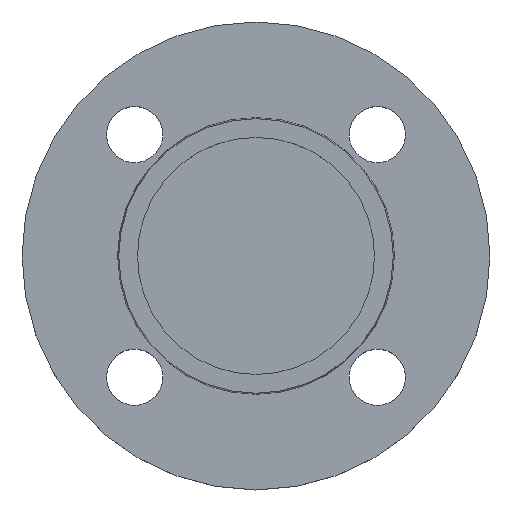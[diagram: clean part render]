
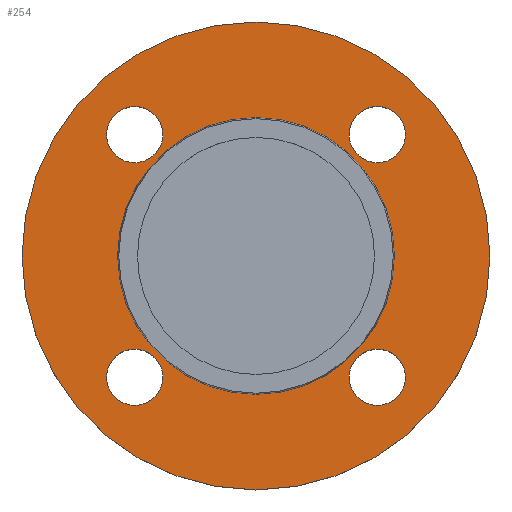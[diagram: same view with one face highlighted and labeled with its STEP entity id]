
A CAD part, top view. The second image highlights one B-rep face of the part: STEP entity #254.
In plain terms, the highlighted planar face has unit normal (0, 0, 1).
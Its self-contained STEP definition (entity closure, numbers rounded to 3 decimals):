
#2 = EDGE_CURVE ( 'NONE', #226, #391, #298, .T. ) ;
#16 = CIRCLE ( 'NONE', #29, 9. ) ;
#19 = AXIS2_PLACEMENT_3D ( 'NONE', #636, #639, #640 ) ;
#28 = EDGE_CURVE ( 'NONE', #227, #468, #16, .T. ) ;
#29 = AXIS2_PLACEMENT_3D ( 'NONE', #523, #524, #526 ) ;
#35 = AXIS2_PLACEMENT_3D ( 'NONE', #311, #281, #118 ) ;
#76 = AXIS2_PLACEMENT_3D ( 'NONE', #584, #585, #586 ) ;
#99 = AXIS2_PLACEMENT_3D ( 'NONE', #569, #570, #571 ) ;
#101 = CIRCLE ( 'NONE', #99, 75. ) ;
#118 = DIRECTION ( 'NONE',  ( 1., 0., 0. ) ) ;
#120 = AXIS2_PLACEMENT_3D ( 'NONE', #273, #658, #659 ) ;
#124 = CARTESIAN_POINT ( 'NONE',  ( -47.891, -38.891, -2. ) ) ;
#155 = CIRCLE ( 'NONE', #190, 9. ) ;
#168 = EDGE_CURVE ( 'NONE', #491, #247, #413, .T. ) ;
#171 = CARTESIAN_POINT ( 'NONE',  ( -44.353, 0., -2. ) ) ;
#176 = EDGE_CURVE ( 'NONE', #472, #481, #155, .T. ) ;
#182 = EDGE_CURVE ( 'NONE', #247, #491, #101, .T. ) ;
#183 = CIRCLE ( 'NONE', #209, 9. ) ;
#190 = AXIS2_PLACEMENT_3D ( 'NONE', #557, #558, #559 ) ;
#196 = EDGE_CURVE ( 'NONE', #481, #472, #263, .T. ) ;
#201 = CIRCLE ( 'NONE', #35, 9. ) ;
#207 = EDGE_CURVE ( 'NONE', #391, #226, #283, .T. ) ;
#209 = AXIS2_PLACEMENT_3D ( 'NONE', #250, #257, #699 ) ;
#214 = CARTESIAN_POINT ( 'NONE',  ( 29.891, 38.891, -2. ) ) ;
#217 = AXIS2_PLACEMENT_3D ( 'NONE', #220, #221, #222 ) ;
#220 = CARTESIAN_POINT ( 'NONE',  ( 38.891, -38.891, -2. ) ) ;
#221 = DIRECTION ( 'NONE',  ( 0., 0., -1. ) ) ;
#222 = DIRECTION ( 'NONE',  ( 1., 0., 0. ) ) ;
#226 = VERTEX_POINT ( 'NONE', #595 ) ;
#227 = VERTEX_POINT ( 'NONE', #597 ) ;
#236 = VERTEX_POINT ( 'NONE', #611 ) ;
#238 = EDGE_LOOP ( 'NONE', ( #387, #388 ) ) ;
#247 = VERTEX_POINT ( 'NONE', #621 ) ;
#250 = CARTESIAN_POINT ( 'NONE',  ( 38.891, -38.891, -2. ) ) ;
#254 = ADVANCED_FACE ( 'NONE', ( #629, #630, #631, #632, #633, #634 ), #635, .T. ) ;
#257 = DIRECTION ( 'NONE',  ( 0., 0., -1. ) ) ;
#263 = CIRCLE ( 'NONE', #291, 9. ) ;
#265 = EDGE_LOOP ( 'NONE', ( #379, #380 ) ) ;
#268 = CIRCLE ( 'NONE', #217, 9. ) ;
#270 = EDGE_CURVE ( 'NONE', #500, #492, #288, .T. ) ;
#273 = CARTESIAN_POINT ( 'NONE',  ( 0., 0., -2. ) ) ;
#281 = DIRECTION ( 'NONE',  ( 0., 0., -1. ) ) ;
#282 = CARTESIAN_POINT ( 'NONE',  ( -29.891, 38.891, -2. ) ) ;
#283 = CIRCLE ( 'NONE', #76, 9. ) ;
#287 = CARTESIAN_POINT ( 'NONE',  ( -29.891, -38.891, -2. ) ) ;
#288 = CIRCLE ( 'NONE', #120, 44.353 ) ;
#291 = AXIS2_PLACEMENT_3D ( 'NONE', #580, #581, #582 ) ;
#296 = AXIS2_PLACEMENT_3D ( 'NONE', #542, #543, #544 ) ;
#298 = CIRCLE ( 'NONE', #596, 9. ) ;
#300 = CARTESIAN_POINT ( 'NONE',  ( 44.353, 0., -2. ) ) ;
#307 = CARTESIAN_POINT ( 'NONE',  ( -75., 0., -2. ) ) ;
#311 = CARTESIAN_POINT ( 'NONE',  ( -38.891, 38.891, -2. ) ) ;
#314 = CARTESIAN_POINT ( 'NONE',  ( 47.891, -38.891, -2. ) ) ;
#319 = EDGE_CURVE ( 'NONE', #492, #500, #528, .T. ) ;
#330 = AXIS2_PLACEMENT_3D ( 'NONE', #704, #705, #707 ) ;
#363 = EDGE_LOOP ( 'NONE', ( #381, #383 ) ) ;
#377 = ORIENTED_EDGE ( 'NONE', *, *, #403, .T. ) ;
#378 = ORIENTED_EDGE ( 'NONE', *, *, #412, .T. ) ;
#379 = ORIENTED_EDGE ( 'NONE', *, *, #176, .T. ) ;
#380 = ORIENTED_EDGE ( 'NONE', *, *, #196, .T. ) ;
#381 = ORIENTED_EDGE ( 'NONE', *, *, #603, .T. ) ;
#383 = ORIENTED_EDGE ( 'NONE', *, *, #28, .T. ) ;
#384 = ORIENTED_EDGE ( 'NONE', *, *, #2, .T. ) ;
#386 = ORIENTED_EDGE ( 'NONE', *, *, #207, .T. ) ;
#387 = ORIENTED_EDGE ( 'NONE', *, *, #270, .T. ) ;
#388 = ORIENTED_EDGE ( 'NONE', *, *, #319, .T. ) ;
#389 = ORIENTED_EDGE ( 'NONE', *, *, #182, .F. ) ;
#391 = VERTEX_POINT ( 'NONE', #214 ) ;
#392 = ORIENTED_EDGE ( 'NONE', *, *, #168, .F. ) ;
#403 = EDGE_CURVE ( 'NONE', #503, #236, #268, .T. ) ;
#412 = EDGE_CURVE ( 'NONE', #236, #503, #183, .T. ) ;
#413 = CIRCLE ( 'NONE', #296, 75. ) ;
#468 = VERTEX_POINT ( 'NONE', #282 ) ;
#472 = VERTEX_POINT ( 'NONE', #287 ) ;
#477 = EDGE_LOOP ( 'NONE', ( #389, #392 ) ) ;
#480 = EDGE_LOOP ( 'NONE', ( #384, #386 ) ) ;
#481 = VERTEX_POINT ( 'NONE', #124 ) ;
#489 = EDGE_LOOP ( 'NONE', ( #377, #378 ) ) ;
#491 = VERTEX_POINT ( 'NONE', #307 ) ;
#492 = VERTEX_POINT ( 'NONE', #300 ) ;
#500 = VERTEX_POINT ( 'NONE', #171 ) ;
#503 = VERTEX_POINT ( 'NONE', #314 ) ;
#507 = CARTESIAN_POINT ( 'NONE',  ( 38.891, 38.891, -2. ) ) ;
#508 = DIRECTION ( 'NONE',  ( 0., 0., -1. ) ) ;
#509 = DIRECTION ( 'NONE',  ( 1., 0., 0. ) ) ;
#523 = CARTESIAN_POINT ( 'NONE',  ( -38.891, 38.891, -2. ) ) ;
#524 = DIRECTION ( 'NONE',  ( 0., 0., -1. ) ) ;
#526 = DIRECTION ( 'NONE',  ( 1., 0., 0. ) ) ;
#528 = CIRCLE ( 'NONE', #330, 44.353 ) ;
#542 = CARTESIAN_POINT ( 'NONE',  ( 0., 0., -2. ) ) ;
#543 = DIRECTION ( 'NONE',  ( 0., 0., -1. ) ) ;
#544 = DIRECTION ( 'NONE',  ( -1., 0., 0. ) ) ;
#557 = CARTESIAN_POINT ( 'NONE',  ( -38.891, -38.891, -2. ) ) ;
#558 = DIRECTION ( 'NONE',  ( 0., 0., -1. ) ) ;
#559 = DIRECTION ( 'NONE',  ( 1., 0., 0. ) ) ;
#569 = CARTESIAN_POINT ( 'NONE',  ( 0., 0., -2. ) ) ;
#570 = DIRECTION ( 'NONE',  ( 0., 0., -1. ) ) ;
#571 = DIRECTION ( 'NONE',  ( -1., 0., 0. ) ) ;
#580 = CARTESIAN_POINT ( 'NONE',  ( -38.891, -38.891, -2. ) ) ;
#581 = DIRECTION ( 'NONE',  ( 0., 0., -1. ) ) ;
#582 = DIRECTION ( 'NONE',  ( 1., 0., 0. ) ) ;
#584 = CARTESIAN_POINT ( 'NONE',  ( 38.891, 38.891, -2. ) ) ;
#585 = DIRECTION ( 'NONE',  ( 0., 0., -1. ) ) ;
#586 = DIRECTION ( 'NONE',  ( 1., 0., 0. ) ) ;
#595 = CARTESIAN_POINT ( 'NONE',  ( 47.891, 38.891, -2. ) ) ;
#596 = AXIS2_PLACEMENT_3D ( 'NONE', #507, #508, #509 ) ;
#597 = CARTESIAN_POINT ( 'NONE',  ( -47.891, 38.891, -2. ) ) ;
#603 = EDGE_CURVE ( 'NONE', #468, #227, #201, .T. ) ;
#611 = CARTESIAN_POINT ( 'NONE',  ( 29.891, -38.891, -2. ) ) ;
#621 = CARTESIAN_POINT ( 'NONE',  ( 75., 0., -2. ) ) ;
#629 = FACE_BOUND ( 'NONE', #489, .T. ) ;
#630 = FACE_BOUND ( 'NONE', #265, .T. ) ;
#631 = FACE_BOUND ( 'NONE', #363, .T. ) ;
#632 = FACE_BOUND ( 'NONE', #480, .T. ) ;
#633 = FACE_BOUND ( 'NONE', #238, .T. ) ;
#634 = FACE_OUTER_BOUND ( 'NONE', #477, .T. ) ;
#635 = PLANE ( 'NONE',  #19 ) ;
#636 = CARTESIAN_POINT ( 'NONE',  ( 44.353, 0., -2. ) ) ;
#639 = DIRECTION ( 'NONE',  ( 0., 0., 1. ) ) ;
#640 = DIRECTION ( 'NONE',  ( 1., 0., 0. ) ) ;
#658 = DIRECTION ( 'NONE',  ( 0., 0., -1. ) ) ;
#659 = DIRECTION ( 'NONE',  ( -1., 0., 0. ) ) ;
#699 = DIRECTION ( 'NONE',  ( 1., 0., 0. ) ) ;
#704 = CARTESIAN_POINT ( 'NONE',  ( 0., 0., -2. ) ) ;
#705 = DIRECTION ( 'NONE',  ( 0., 0., -1. ) ) ;
#707 = DIRECTION ( 'NONE',  ( -1., 0., 0. ) ) ;
